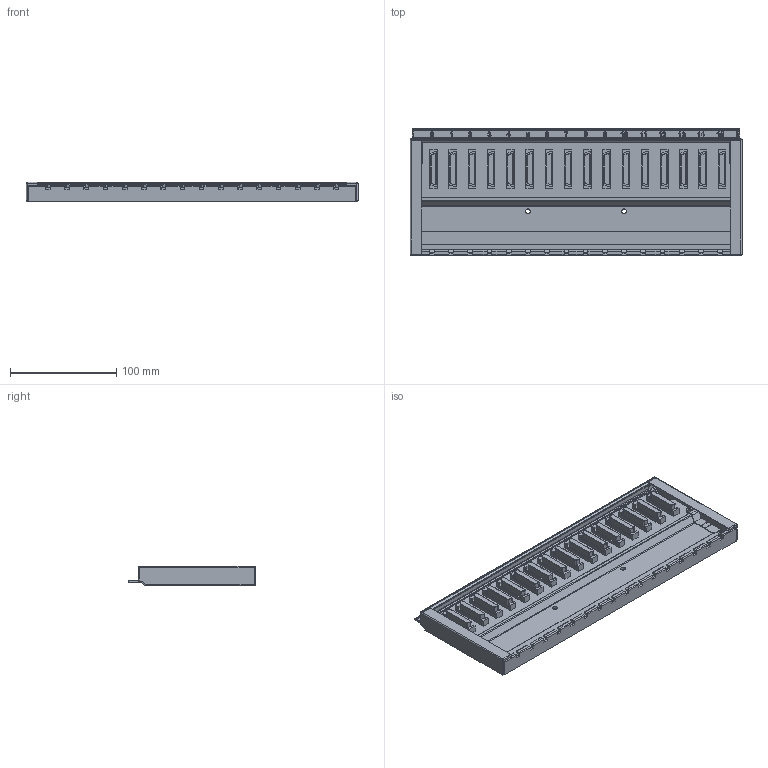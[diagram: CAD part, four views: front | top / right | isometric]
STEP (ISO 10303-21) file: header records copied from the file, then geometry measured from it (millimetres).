
FILE_DESCRIPTION (( 'STEP AP214' ), '1' );
FILE_NAME ('NX9002_20130611.STEP', '2013-06-11T16:04:05', ( 'ALTUS' ), ( '' ), 'SwSTEP 2.0', 'SolidWorks 2011', '' );
FILE_SCHEMA (( 'AUTOMOTIVE_DESIGN' ));
Length unit declared in the file: millimetre
Products named in the file (1): NX9002_20130611
Bounding box: 312.5 x 119.08 x 18.68 mm (x, y, z)
Volume: 174898.9 mm3; surface area: 157419.5 mm2
Topology: 1 solids, 1 shells, 1282 faces, 3894 edges, 2675 vertices
Faces by surface type: plane 666, cylinder 432, bspline 66, torus 66, cone 46, sphere 6
Entity records: 60304 total; most frequent: CARTESIAN_POINT 11796, ORIENTED_EDGE 7768, DIRECTION 6570, EDGE_CURVE 3884, VERTEX_POINT 2673, VECTOR 2192, LINE 2192, AXIS2_PLACEMENT_3D 2189
